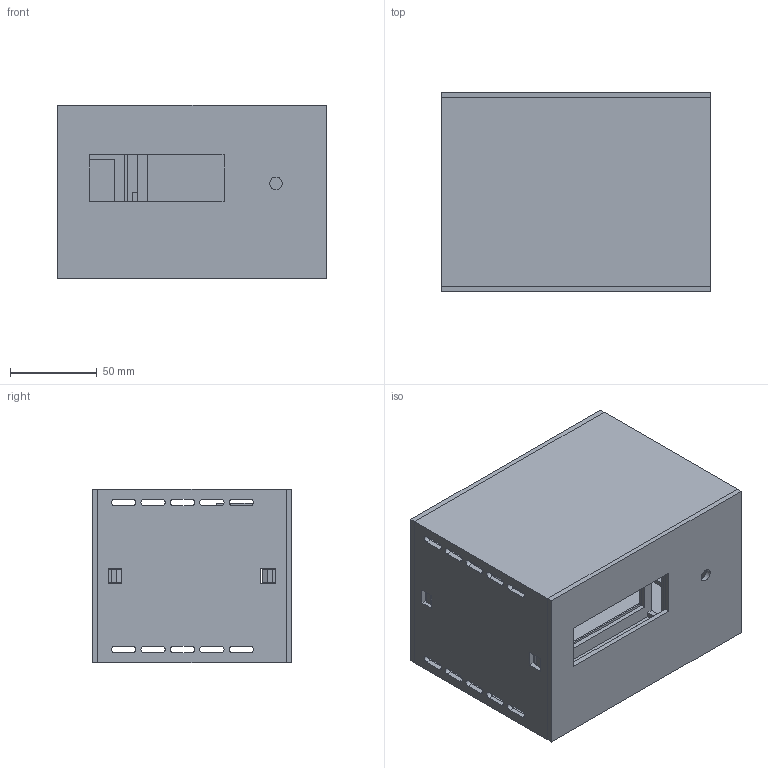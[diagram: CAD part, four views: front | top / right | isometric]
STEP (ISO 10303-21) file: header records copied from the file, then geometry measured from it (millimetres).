
FILE_DESCRIPTION(('Open CASCADE Model'),'2;1');
FILE_NAME('Open CASCADE Shape Model','2026-11-05T13:32:28',('Author'),( 'Open CASCADE'),'Open CASCADE STEP processor 7.8','Open CASCADE 7.8' ,'Unknown');
FILE_SCHEMA(('AUTOMOTIVE_DESIGN { 1 0 10303 214 1 1 1 1 }'));
Length unit declared in the file: millimetre
Products named in the file (6): Boitier_5_pieces_a_imprimer; 05_Berceau_XL4015; 01_Coque_ouverte; 02_Facade_supports_LCD_A; 03_Berceau_B; 04_Panneau_arriere
Assembly tree (5 placements, depth 2):
  Boitier_5_pieces_a_imprimer
    05_Berceau_XL4015
    01_Coque_ouverte
    02_Facade_supports_LCD_A
    03_Berceau_B
    04_Panneau_arriere
Bounding box: 155 x 115 x 100 mm (x, y, z)
Volume: 295666.2 mm3; surface area: 230996 mm2
Topology: 5 solids, 5 shells, 543 faces, 1567 edges, 1042 vertices
Faces by surface type: plane 498, cylinder 45
Full cylindrical faces by diameter (mm): 7.2 x1, 12.4 x1, 12.5 x2, 16 x1
Entity records: 37151 total; most frequent: CARTESIAN_POINT 7378, DIRECTION 4803, LINE 3435, VECTOR 3435, ORIENTED_EDGE 3134, PCURVE 3134, DEFINITIONAL_REPRESENTATION 3134, EDGE_CURVE 1567
